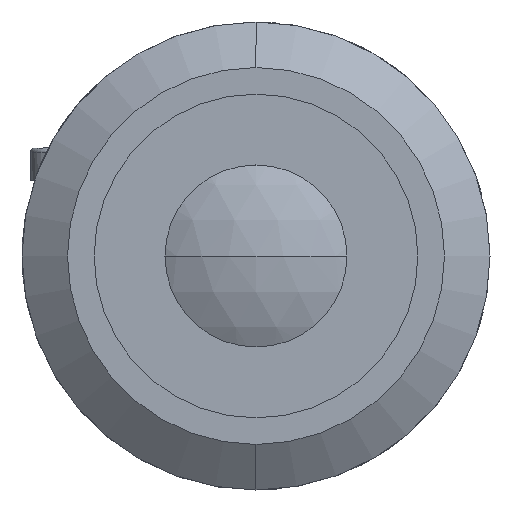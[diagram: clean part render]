
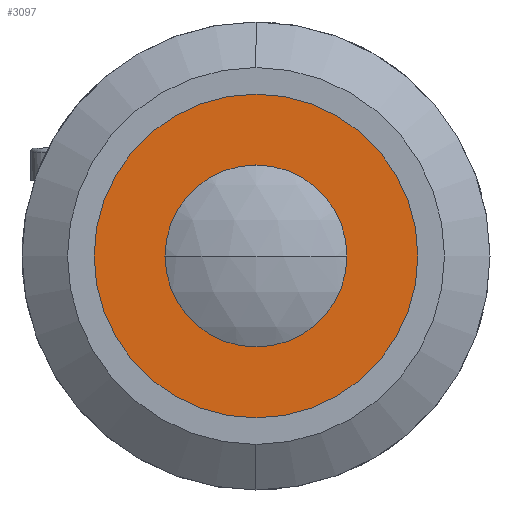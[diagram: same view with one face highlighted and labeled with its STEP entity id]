
A CAD part, left-side view. The second image highlights one B-rep face of the part: STEP entity #3097.
In plain terms, the highlighted planar face has unit normal (-1, 0, 0).
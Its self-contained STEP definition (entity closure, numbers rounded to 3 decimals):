
#24 = ORIENTED_EDGE ( 'NONE', *, *, #3001, .F. ) ;
#53 = ORIENTED_EDGE ( 'NONE', *, *, #3207, .T. ) ;
#160 = VERTEX_POINT ( 'NONE', #567 ) ;
#166 = ORIENTED_EDGE ( 'NONE', *, *, #3265, .F. ) ;
#181 = ORIENTED_EDGE ( 'NONE', *, *, #3079, .T. ) ;
#182 = EDGE_LOOP ( 'NONE', ( #53, #181 ) ) ;
#221 = VERTEX_POINT ( 'NONE', #957 ) ;
#263 = CARTESIAN_POINT ( 'NONE',  ( 3.8, 0., 0. ) ) ;
#300 = DIRECTION ( 'NONE',  ( -1., 0., 0. ) ) ;
#567 = CARTESIAN_POINT ( 'NONE',  ( 3.8, 0., -7. ) ) ;
#578 = DIRECTION ( 'NONE',  ( 0., 0., 1. ) ) ;
#606 = FACE_BOUND ( 'NONE', #2837, .T. ) ;
#677 = PLANE ( 'NONE',  #2500 ) ;
#688 = FACE_OUTER_BOUND ( 'NONE', #182, .T. ) ;
#892 = DIRECTION ( 'NONE',  ( -1., 0., 0. ) ) ;
#906 = CIRCLE ( 'NONE', #2611, 13. ) ;
#940 = DIRECTION ( 'NONE',  ( -1., 0., 0. ) ) ;
#957 = CARTESIAN_POINT ( 'NONE',  ( 3.8, 0., 7. ) ) ;
#1230 = DIRECTION ( 'NONE',  ( 0., 0., -1. ) ) ;
#1297 = CIRCLE ( 'NONE', #2716, 7. ) ;
#1339 = VERTEX_POINT ( 'NONE', #2545 ) ;
#1409 = CARTESIAN_POINT ( 'NONE',  ( 3.8, 0., -13. ) ) ;
#1630 = VERTEX_POINT ( 'NONE', #1409 ) ;
#2005 = CARTESIAN_POINT ( 'NONE',  ( 3.8, 0., 0. ) ) ;
#2273 = DIRECTION ( 'NONE',  ( -1., 0., 0. ) ) ;
#2277 = AXIS2_PLACEMENT_3D ( 'NONE', #2005, #300, #2302 ) ;
#2302 = DIRECTION ( 'NONE',  ( 0., 0., 1. ) ) ;
#2400 = AXIS2_PLACEMENT_3D ( 'NONE', #263, #2273, #578 ) ;
#2500 = AXIS2_PLACEMENT_3D ( 'NONE', #2671, #2956, #1230 ) ;
#2545 = CARTESIAN_POINT ( 'NONE',  ( 3.8, 0., 13. ) ) ;
#2597 = CARTESIAN_POINT ( 'NONE',  ( 3.8, 0., 0. ) ) ;
#2611 = AXIS2_PLACEMENT_3D ( 'NONE', #2654, #940, #2943 ) ;
#2654 = CARTESIAN_POINT ( 'NONE',  ( 3.8, 0., 0. ) ) ;
#2671 = CARTESIAN_POINT ( 'NONE',  ( 3.8, 13., 0. ) ) ;
#2716 = AXIS2_PLACEMENT_3D ( 'NONE', #2597, #892, #2892 ) ;
#2837 = EDGE_LOOP ( 'NONE', ( #166, #24 ) ) ;
#2892 = DIRECTION ( 'NONE',  ( 0., 0., 1. ) ) ;
#2943 = DIRECTION ( 'NONE',  ( 0., 0., 1. ) ) ;
#2956 = DIRECTION ( 'NONE',  ( 1., 0., 0. ) ) ;
#3001 = EDGE_CURVE ( 'NONE', #160, #221, #1297, .T. ) ;
#3079 = EDGE_CURVE ( 'NONE', #1630, #1339, #906, .T. ) ;
#3097 = ADVANCED_FACE ( 'NONE', ( #606, #688 ), #677, .F. ) ;
#3207 = EDGE_CURVE ( 'NONE', #1339, #1630, #3600, .T. ) ;
#3265 = EDGE_CURVE ( 'NONE', #221, #160, #3438, .T. ) ;
#3438 = CIRCLE ( 'NONE', #2277, 7. ) ;
#3600 = CIRCLE ( 'NONE', #2400, 13. ) ;
